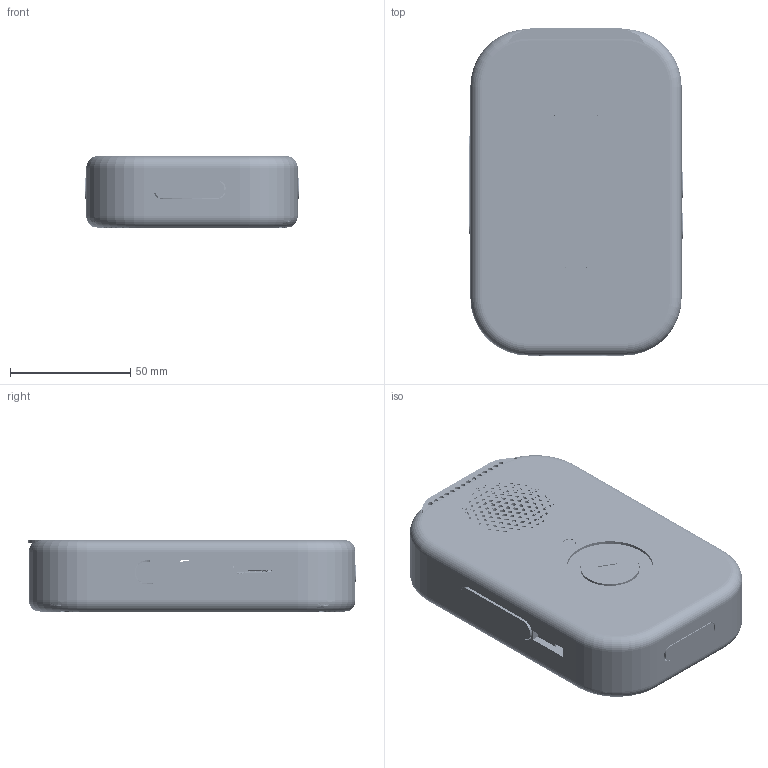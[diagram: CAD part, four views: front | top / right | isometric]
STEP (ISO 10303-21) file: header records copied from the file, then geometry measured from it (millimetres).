
FILE_DESCRIPTION(('Open CASCADE Model'),'2;1');
FILE_NAME('Open CASCADE Shape Model','2026-09-02T15:45:56',('Author'),( 'Open CASCADE'),'Open CASCADE STEP processor 7.7','Open CASCADE 7.7' ,'Unknown');
FILE_SCHEMA(('AUTOMOTIVE_DESIGN { 1 0 10303 214 1 1 1 1 }'));
Length unit declared in the file: millimetre
Products named in the file (33): WAHI1_8_2_LOZENGE_ALPHA; front_shell; front_shell_part; back_cover; back_cover_part; speaker_grille; speaker_grille_part; speaker_rear_cup; speaker_rear_cup_part; front_action_button; front_action_button_part; left_ptt_button; left_ptt_button_part; right_aux_button; right_aux_button_part; right_power_button; right_power_button_part; rgb_lightpipe; rgb_lightpipe_part; service_insert_blank; service_insert_blank_part; supplied_pcb; supplied_pcb_part; battery_keepout; battery_keepout_part; speaker_keepout; speaker_keepout_part; microphone_keepout; microphone_keepout_part; lte_antenna_keepout; lte_antenna_keepout_part; gnss_antenna_keepout; gnss_antenna_keepout_part
Assembly tree (32 placements, depth 3):
  WAHI1_8_2_LOZENGE_ALPHA
    front_shell
      front_shell_part
    back_cover
      back_cover_part
    speaker_grille
      speaker_grille_part
    speaker_rear_cup
      speaker_rear_cup_part
    front_action_button
      front_action_button_part
    left_ptt_button
      left_ptt_button_part
    right_aux_button
      right_aux_button_part
    right_power_button
      right_power_button_part
    rgb_lightpipe
      rgb_lightpipe_part
    service_insert_blank
      service_insert_blank_part
    supplied_pcb
      supplied_pcb_part
    battery_keepout
      battery_keepout_part
    speaker_keepout
      speaker_keepout_part
    microphone_keepout
      microphone_keepout_part
    lte_antenna_keepout
      lte_antenna_keepout_part
    gnss_antenna_keepout
      gnss_antenna_keepout_part
Bounding box: 89.2 x 136.6 x 30 mm (x, y, z)
Volume: 139819.8 mm3; surface area: 122931.9 mm2
Topology: 264 solids, 1629 shells, 11460 faces, 35753 edges, 26210 vertices
Faces by surface type: plane 7371, cylinder 2691, bspline 1294, torus 58, sphere 28, cone 18
Full cylindrical faces by diameter (mm): 0.3 x16, 0.375 x1, 0.5 x1, 0.6 x4, 0.75 x4, 0.813 x5, 0.9 x6, 1 x16, 1.5 x6, 1.8 x2, 1.9 x4, 2 x306, 2.2 x218, 2.5 x2, 5 x1, 5.1 x1, 5.4 x1, 24.4 x1, 25 x1, 28.6 x1, 36 x1, 37 x1, 40 x1, 40.8 x1, 44.6 x1, 45 x1
Entity records: 890366 total; most frequent: CARTESIAN_POINT 247529, DIRECTION 107907, LINE 73474, VECTOR 73474, ORIENTED_EDGE 62429, PCURVE 62429, DEFINITIONAL_REPRESENTATION 62429, EDGE_CURVE 35725
